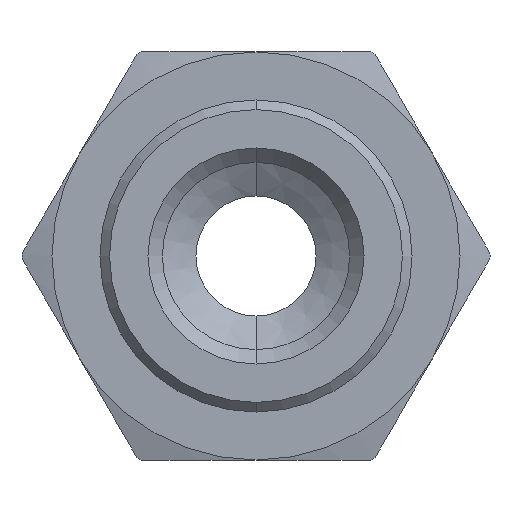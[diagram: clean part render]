
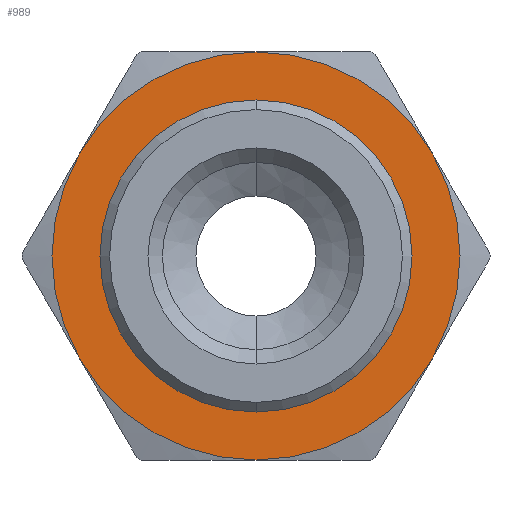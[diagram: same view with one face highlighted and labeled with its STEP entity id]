
A CAD part, front view. The second image highlights one B-rep face of the part: STEP entity #989.
In plain terms, the highlighted planar face has unit normal (0, -1, 0).
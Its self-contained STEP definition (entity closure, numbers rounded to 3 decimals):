
#52 = ORIENTED_EDGE ( 'NONE', *, *, #1233, .T. ) ;
#100 = ORIENTED_EDGE ( 'NONE', *, *, #473, .T. ) ;
#102 = VERTEX_POINT ( 'NONE', #1527 ) ;
#125 = CARTESIAN_POINT ( 'NONE',  ( 9.75, 8., 0. ) ) ;
#158 = CIRCLE ( 'NONE', #342, 6.5 ) ;
#176 = ORIENTED_EDGE ( 'NONE', *, *, #376, .T. ) ;
#207 = DIRECTION ( 'NONE',  ( 0., 0., -1. ) ) ;
#214 = CARTESIAN_POINT ( 'NONE',  ( 0., 8., 0. ) ) ;
#241 = AXIS2_PLACEMENT_3D ( 'NONE', #546, #1419, #437 ) ;
#260 = DIRECTION ( 'NONE',  ( 0., -1., 0. ) ) ;
#289 = AXIS2_PLACEMENT_3D ( 'NONE', #423, #1286, #959 ) ;
#336 = DIRECTION ( 'NONE',  ( 0., 0., -1. ) ) ;
#342 = AXIS2_PLACEMENT_3D ( 'NONE', #1451, #1584, #1087 ) ;
#348 = EDGE_CURVE ( 'NONE', #102, #1560, #805, .T. ) ;
#376 = EDGE_CURVE ( 'NONE', #1560, #677, #1594, .T. ) ;
#381 = DIRECTION ( 'NONE',  ( 0., -1., 0. ) ) ;
#382 = ORIENTED_EDGE ( 'NONE', *, *, #497, .T. ) ;
#385 = DIRECTION ( 'NONE',  ( 0., 0., -1. ) ) ;
#413 = AXIS2_PLACEMENT_3D ( 'NONE', #214, #1339, #336 ) ;
#415 = DIRECTION ( 'NONE',  ( 0., -1., 0. ) ) ;
#423 = CARTESIAN_POINT ( 'NONE',  ( 0., 8., 0. ) ) ;
#429 = VERTEX_POINT ( 'NONE', #1579 ) ;
#437 = DIRECTION ( 'NONE',  ( 0., 0., -1. ) ) ;
#473 = EDGE_CURVE ( 'NONE', #1053, #429, #735, .T. ) ;
#482 = DIRECTION ( 'NONE',  ( 0., 0., -1. ) ) ;
#497 = EDGE_CURVE ( 'NONE', #677, #1108, #695, .T. ) ;
#514 = ORIENTED_EDGE ( 'NONE', *, *, #348, .T. ) ;
#546 = CARTESIAN_POINT ( 'NONE',  ( 0., 8., 0. ) ) ;
#572 = DIRECTION ( 'NONE',  ( 0., 1., 0. ) ) ;
#605 = CIRCLE ( 'NONE', #289, 8.5 ) ;
#620 = CARTESIAN_POINT ( 'NONE',  ( -7.361, 8., -4.25 ) ) ;
#657 = AXIS2_PLACEMENT_3D ( 'NONE', #939, #1441, #207 ) ;
#677 = VERTEX_POINT ( 'NONE', #1235 ) ;
#695 = CIRCLE ( 'NONE', #413, 8.5 ) ;
#718 = VERTEX_POINT ( 'NONE', #620 ) ;
#729 = CIRCLE ( 'NONE', #1561, 8.5 ) ;
#735 = CIRCLE ( 'NONE', #812, 6.5 ) ;
#740 = EDGE_LOOP ( 'NONE', ( #1028, #514, #176, #382, #902, #52 ) ) ;
#775 = VERTEX_POINT ( 'NONE', #1137 ) ;
#784 = DIRECTION ( 'NONE',  ( 0., 0., -1. ) ) ;
#802 = FACE_OUTER_BOUND ( 'NONE', #740, .T. ) ;
#805 = CIRCLE ( 'NONE', #1331, 8.5 ) ;
#812 = AXIS2_PLACEMENT_3D ( 'NONE', #1195, #572, #1445 ) ;
#820 = CIRCLE ( 'NONE', #657, 8.5 ) ;
#838 = EDGE_CURVE ( 'NONE', #718, #102, #605, .T. ) ;
#850 = AXIS2_PLACEMENT_3D ( 'NONE', #125, #381, #482 ) ;
#886 = CARTESIAN_POINT ( 'NONE',  ( 7.361, 8., -4.25 ) ) ;
#902 = ORIENTED_EDGE ( 'NONE', *, *, #1111, .T. ) ;
#926 = ORIENTED_EDGE ( 'NONE', *, *, #1602, .T. ) ;
#939 = CARTESIAN_POINT ( 'NONE',  ( 0., 8., 0. ) ) ;
#959 = DIRECTION ( 'NONE',  ( 0., 0., -1. ) ) ;
#989 = ADVANCED_FACE ( 'NONE', ( #1305, #802 ), #1237, .T. ) ;
#1026 = CARTESIAN_POINT ( 'NONE',  ( 0., 8., 0. ) ) ;
#1028 = ORIENTED_EDGE ( 'NONE', *, *, #838, .T. ) ;
#1053 = VERTEX_POINT ( 'NONE', #1387 ) ;
#1087 = DIRECTION ( 'NONE',  ( 0., 0., 1. ) ) ;
#1108 = VERTEX_POINT ( 'NONE', #1274 ) ;
#1111 = EDGE_CURVE ( 'NONE', #1108, #775, #729, .T. ) ;
#1137 = CARTESIAN_POINT ( 'NONE',  ( -7.361, 8., 4.25 ) ) ;
#1167 = EDGE_LOOP ( 'NONE', ( #100, #926 ) ) ;
#1195 = CARTESIAN_POINT ( 'NONE',  ( 0., 8., 0. ) ) ;
#1233 = EDGE_CURVE ( 'NONE', #775, #718, #820, .T. ) ;
#1235 = CARTESIAN_POINT ( 'NONE',  ( 7.361, 8., 4.25 ) ) ;
#1237 = PLANE ( 'NONE',  #850 ) ;
#1274 = CARTESIAN_POINT ( 'NONE',  ( 0., 8., 8.5 ) ) ;
#1286 = DIRECTION ( 'NONE',  ( 0., -1., 0. ) ) ;
#1305 = FACE_BOUND ( 'NONE', #1167, .T. ) ;
#1331 = AXIS2_PLACEMENT_3D ( 'NONE', #1411, #415, #784 ) ;
#1339 = DIRECTION ( 'NONE',  ( 0., -1., 0. ) ) ;
#1387 = CARTESIAN_POINT ( 'NONE',  ( 0., 8., 6.5 ) ) ;
#1411 = CARTESIAN_POINT ( 'NONE',  ( 0., 8., 0. ) ) ;
#1419 = DIRECTION ( 'NONE',  ( 0., -1., 0. ) ) ;
#1441 = DIRECTION ( 'NONE',  ( 0., -1., 0. ) ) ;
#1445 = DIRECTION ( 'NONE',  ( 0., 0., 1. ) ) ;
#1451 = CARTESIAN_POINT ( 'NONE',  ( 0., 8., 0. ) ) ;
#1527 = CARTESIAN_POINT ( 'NONE',  ( 0., 8., -8.5 ) ) ;
#1560 = VERTEX_POINT ( 'NONE', #886 ) ;
#1561 = AXIS2_PLACEMENT_3D ( 'NONE', #1026, #260, #385 ) ;
#1579 = CARTESIAN_POINT ( 'NONE',  ( 0., 8., -6.5 ) ) ;
#1584 = DIRECTION ( 'NONE',  ( 0., 1., 0. ) ) ;
#1594 = CIRCLE ( 'NONE', #241, 8.5 ) ;
#1602 = EDGE_CURVE ( 'NONE', #429, #1053, #158, .T. ) ;
